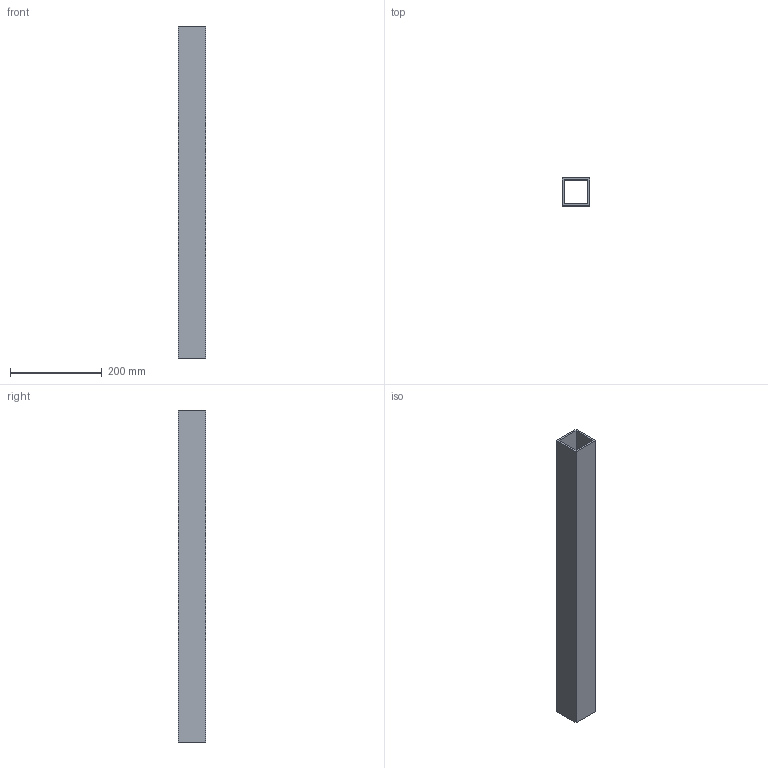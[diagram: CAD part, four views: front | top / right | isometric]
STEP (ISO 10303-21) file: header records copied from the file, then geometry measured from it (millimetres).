
FILE_DESCRIPTION(('Open CASCADE Model'),'2;1');
FILE_NAME('Open CASCADE Shape Model','2026-10-15T15:10:04',('Author'),( 'Open CASCADE'),'Open CASCADE STEP processor 8.0','Open CASCADE 8.0' ,'Unknown');
FILE_SCHEMA(('AUTOMOTIVE_DESIGN { 1 0 10303 214 1 1 1 1 }'));
Length unit declared in the file: millimetre
Products named in the file (1): SHS60x60x4_L725000_P05 21
Bounding box: 60 x 60 x 725 mm (x, y, z)
Volume: 649600 mm3; surface area: 326592 mm2
Topology: 1 solids, 1 shells, 10 faces, 24 edges, 16 vertices
Faces by surface type: plane 10
Entity records: 614 total; most frequent: CARTESIAN_POINT 99, DIRECTION 94, LINE 72, VECTOR 72, ORIENTED_EDGE 48, PCURVE 48, DEFINITIONAL_REPRESENTATION 48, EDGE_CURVE 24
